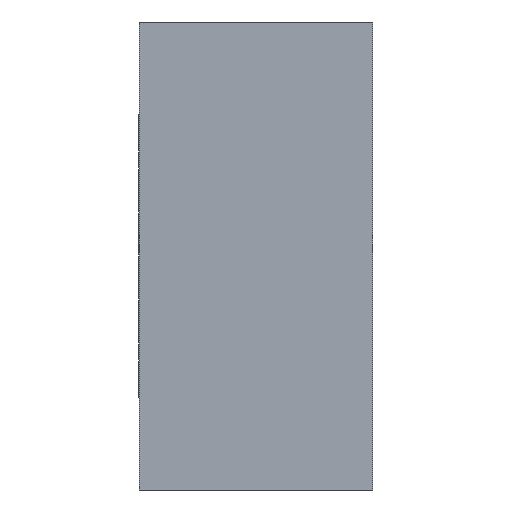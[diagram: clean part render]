
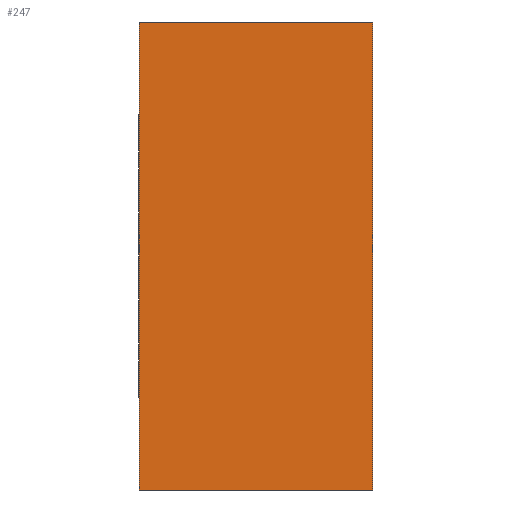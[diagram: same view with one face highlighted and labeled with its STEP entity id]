
A CAD part, left-side view. The second image highlights one B-rep face of the part: STEP entity #247.
In plain terms, the highlighted planar face has unit normal (-1, 0, 0).
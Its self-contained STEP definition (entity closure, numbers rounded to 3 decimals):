
#24=LINE('',#387,#51);
#25=LINE('',#390,#52);
#26=LINE('',#392,#53);
#27=LINE('',#393,#54);
#51=VECTOR('',#322,10.);
#52=VECTOR('',#325,10.);
#53=VECTOR('',#326,10.);
#54=VECTOR('',#327,10.);
#77=FACE_OUTER_BOUND('',#91,.T.);
#91=EDGE_LOOP('',(#175,#176,#177,#178));
#112=VERTEX_POINT('',#380);
#115=VERTEX_POINT('',#385);
#116=VERTEX_POINT('',#389);
#117=VERTEX_POINT('',#391);
#138=EDGE_CURVE('',#112,#115,#24,.T.);
#139=EDGE_CURVE('',#116,#112,#25,.T.);
#140=EDGE_CURVE('',#117,#115,#26,.T.);
#141=EDGE_CURVE('',#116,#117,#27,.T.);
#175=ORIENTED_EDGE('',*,*,#139,.T.);
#176=ORIENTED_EDGE('',*,*,#138,.T.);
#177=ORIENTED_EDGE('',*,*,#140,.F.);
#178=ORIENTED_EDGE('',*,*,#141,.F.);
#220=PLANE('',#284);
#247=ADVANCED_FACE('',(#77),#220,.T.);
#284=AXIS2_PLACEMENT_3D('',#388,#323,#324);
#322=DIRECTION('',(0.,0.,1.));
#323=DIRECTION('center_axis',(-1.,0.,0.));
#324=DIRECTION('ref_axis',(0.,-1.,0.));
#325=DIRECTION('',(0.,-1.,0.));
#326=DIRECTION('',(0.,-1.,0.));
#327=DIRECTION('',(0.,0.,1.));
#380=CARTESIAN_POINT('',(0.,0.,0.));
#385=CARTESIAN_POINT('',(0.,0.,20.));
#387=CARTESIAN_POINT('',(0.,0.,0.));
#388=CARTESIAN_POINT('Origin',(0.,10.,0.));
#389=CARTESIAN_POINT('',(0.,10.,0.));
#390=CARTESIAN_POINT('',(0.,10.,0.));
#391=CARTESIAN_POINT('',(0.,10.,20.));
#392=CARTESIAN_POINT('',(0.,10.,20.));
#393=CARTESIAN_POINT('',(0.,10.,0.));
